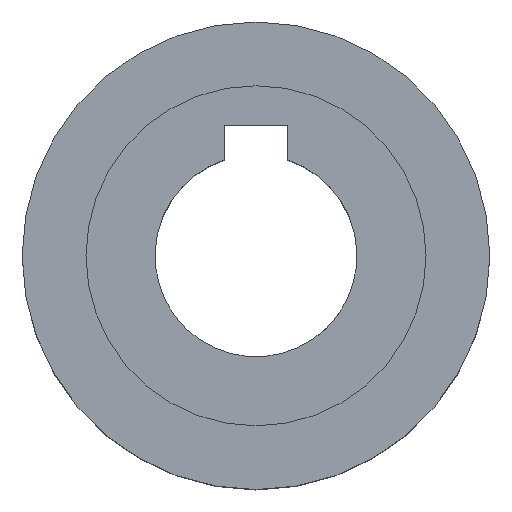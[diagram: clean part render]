
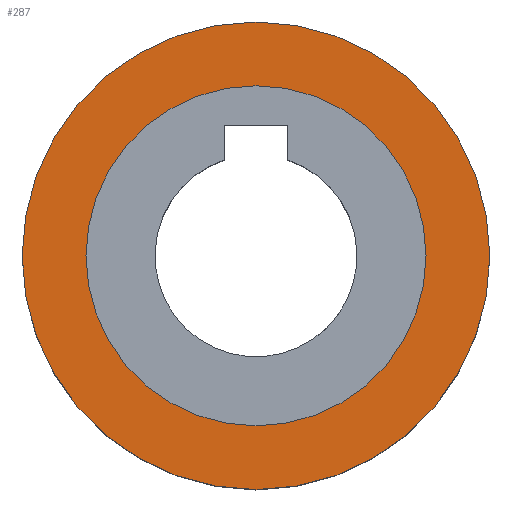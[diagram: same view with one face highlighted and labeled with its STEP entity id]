
A CAD part, top view. The second image highlights one B-rep face of the part: STEP entity #287.
In plain terms, the highlighted planar face has unit normal (0, 0, 1) as drawn and (0, 0, -1) by its records, which use the part's own axes.
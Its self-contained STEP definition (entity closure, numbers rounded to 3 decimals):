
#287=ADVANCED_FACE('',(#1857,#1859),#1861,.T.);
#1857=FACE_BOUND('',#1858,.T.);
#1858=EDGE_LOOP('',(#3356));
#1859=FACE_BOUND('',#1860,.T.);
#1860=EDGE_LOOP('',(#3357));
#1861=PLANE('',#1862);
#1862=AXIS2_PLACEMENT_3D('',#1863,#1864,#1865);
#1863=CARTESIAN_POINT('',(0.,0.,10.5));
#1864=DIRECTION('',(-0.,-0.,-1.));
#1865=DIRECTION('',(-1.,0.,0.));
#3356=ORIENTED_EDGE('',*,*,#4319,.F.);
#3357=ORIENTED_EDGE('',*,*,#4010,.T.);
#4010=EDGE_CURVE('',#4563,#4563,#4564,.T.);
#4319=EDGE_CURVE('',#5173,#5173,#5174,.F.);
#4563=VERTEX_POINT('',#5890);
#4564=CIRCLE('',#5891,16.);
#5173=VERTEX_POINT('',#7603);
#5174=CIRCLE('',#7604,22.);
#5890=CARTESIAN_POINT('',(-16.,0.,10.5));
#5891=AXIS2_PLACEMENT_3D('',#5892,#5893,#5894);
#5892=CARTESIAN_POINT('',(0.,0.,10.5));
#5893=DIRECTION('',(-0.,-0.,-1.));
#5894=DIRECTION('',(-1.,0.,0.));
#7603=CARTESIAN_POINT('',(22.,0.,10.5));
#7604=AXIS2_PLACEMENT_3D('',#7605,#7606,#7607);
#7605=CARTESIAN_POINT('',(0.,0.,10.5));
#7606=DIRECTION('',(0.,0.,1.));
#7607=DIRECTION('',(1.,0.,0.));
